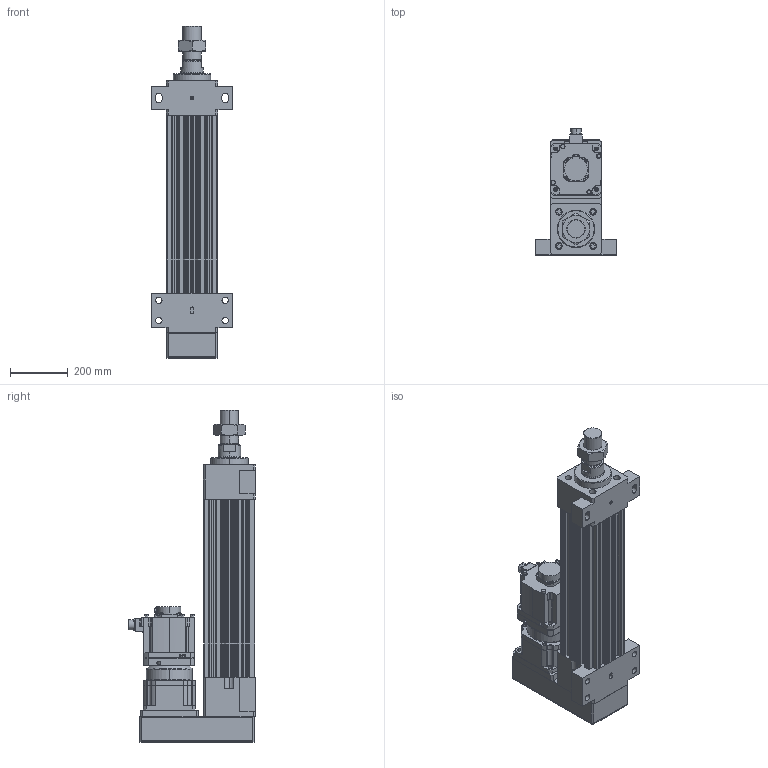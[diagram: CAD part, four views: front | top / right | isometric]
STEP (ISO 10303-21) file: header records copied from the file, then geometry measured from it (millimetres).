
FILE_DESCRIPTION (( 'STEP AP203' ), '1' );
FILE_NAME ('HES180HS-P300-W050G00-M-FFB.STEP', '2023-02-01T06:35:40', ( 'tms' ), ( '' ), 'SwSTEP 2.0', 'SolidWorks 2013', '' );
FILE_SCHEMA (( 'CONFIG_CONTROL_DESIGN' ));
Length unit declared in the file: millimetre
Products named in the file (9): P0403600401; HG-SR502; AB180-003[HG-SR702B]; HES180 ROD M ST300; HES180-P300-G180-FFB; M64X2.0P; HES180HS-P300-W050G00-M-FFB; AB1801; P1301600001
Assembly tree (8 placements, depth 3):
  HES180HS-P300-W050G00-M-FFB
    HES180-P300-G180-FFB
    HES180 ROD M ST300
    M64X2.0P
    AB180-003[HG-SR702B]
      AB1801
      P1301600001
      P0403600401
    HG-SR502
Bounding box: 280 x 438.85 x 1152 mm (x, y, z)
Volume: 27372706.1 mm3; surface area: 2314991.3 mm2
Topology: 4 solids, 19 shells, 1446 faces, 3761 edges, 2443 vertices
Faces by surface type: cylinder 668, plane 567, cone 144, bspline 63, torus 4
Entity records: 53114 total; most frequent: CARTESIAN_POINT 16078, DIRECTION 7777, ORIENTED_EDGE 7426, EDGE_CURVE 3737, AXIS2_PLACEMENT_3D 2922, VERTEX_POINT 2443, LINE 1933, VECTOR 1933
